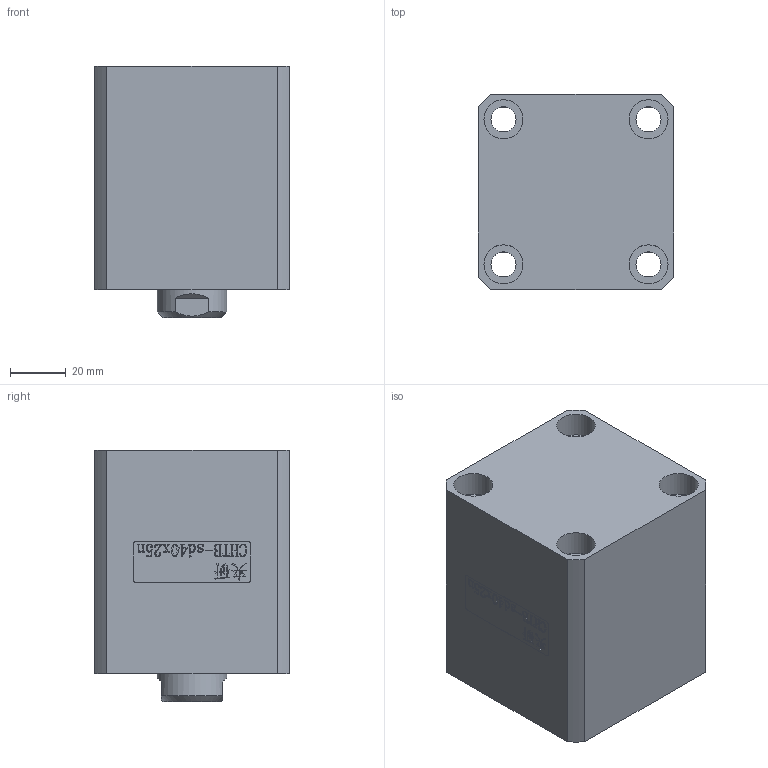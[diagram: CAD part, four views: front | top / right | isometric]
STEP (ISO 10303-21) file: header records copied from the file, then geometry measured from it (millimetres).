
FILE_DESCRIPTION(/* description */ (''),/* implementation_level */ '2;1');
FILE_NAME(/* name */ 'CHTB-sd40x25n.stp',/* time_stamp */ '2022-04-29T17:38:44+08:00',/* author */ (''),/* organization */ (''),/* preprocessor_version */ 'ST-DEVELOPER v16.7',/* originating_system */ 'SIEMENS PLM Software NX 12.0',/* authorisation */ '');
FILE_SCHEMA (('AUTOMOTIVE_DESIGN { 1 0 10303 214 3 1 1 1 }'));
Length unit declared in the file: millimetre
Products named in the file (1): CHTB-sd40x25n
Bounding box: 70 x 70 x 90 mm (x, y, z)
Volume: 335859.7 mm3; surface area: 73666.8 mm2
Topology: 3 solids, 3 shells, 440 faces, 1174 edges, 785 vertices
Faces by surface type: plane 282, extrusion 95, cylinder 39, torus 11, cone 7, bspline 6
Full cylindrical faces by diameter (mm): 4.2 x2, 5 x3, 9 x4, 10.7 x2, 14 x9, 25 x2, 29 x1, 34 x2, 40 x4, 45 x1
Entity records: 19734 total; most frequent: CARTESIAN_POINT 6950, ORIENTED_EDGE 2216, DIRECTION 1744, EDGE_CURVE 1108, VECTOR 880, LINE 785, VERTEX_POINT 769, EDGE_LOOP 547
